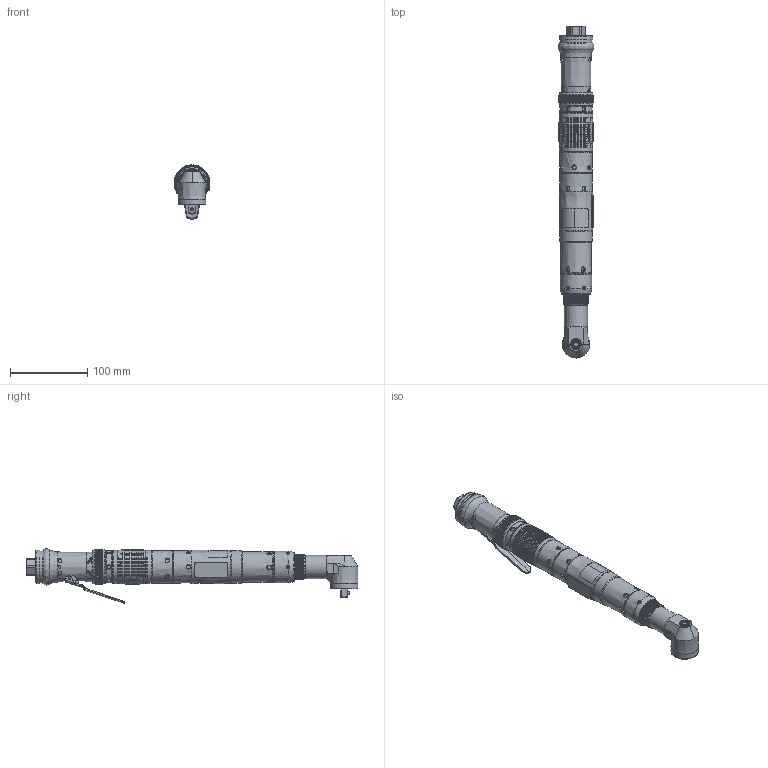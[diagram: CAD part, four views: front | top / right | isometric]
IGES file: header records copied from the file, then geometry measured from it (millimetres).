
Global section: file name: C:\Documents and Settings\rogupta\Desktop\siji2\16594921\16594921.igs; native system: Unigraphics Version X V2.0; preprocessor: Unigraphics NX IGES V2.0; date: 20070510.120755; units: inch
Bounding box: 46.21 x 429.34 x 70.45 mm (x, y, z)
Surface area: 84531.9 mm2 (no closed solid volume)
Topology: 0 solids, 0 shells, 1007 faces, 13476 edges, 13317 vertices
Faces by surface type: revolution 524, extrusion 448, bspline 33, offset 2
